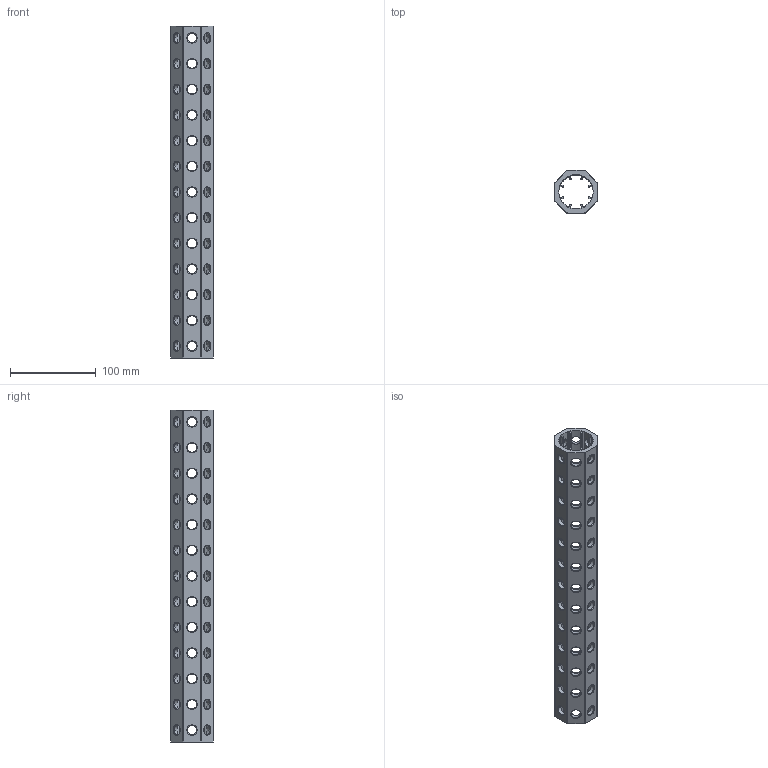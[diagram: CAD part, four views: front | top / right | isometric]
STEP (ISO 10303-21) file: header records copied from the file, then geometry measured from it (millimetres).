
FILE_DESCRIPTION(('CATIA V5 STEP Exchange'),'2;1');
FILE_NAME('U:\Room\唐宝山\EGT002\46-01-010242-01-EGT002-388.stp','2021-08-24T00:59:58+00:00',('none'),('none'),'CATIA Version 5 Release 21 GA (IN-10)','CATIA V5 STEP AP203','none');
FILE_SCHEMA(('CONFIG_CONTROL_DESIGN'));
Length unit declared in the file: millimetre
Products named in the file (1): 46-01-010242-01-EGT002-388
Bounding box: 50 x 50 x 388 mm (x, y, z)
Volume: 276235 mm3; surface area: 134629.8 mm2
Topology: 1 solids, 1 shells, 604 faces, 1676 edges, 1048 vertices
Faces by surface type: cone 312, cylinder 266, plane 26
Entity records: 25104 total; most frequent: CARTESIAN_POINT 10381, ORIENTED_EDGE 3352, DIRECTION 2371, EDGE_CURVE 1676, AXIS2_PLACEMENT_3D 1092, VERTEX_POINT 1048, EDGE_LOOP 788, VECTOR 676
